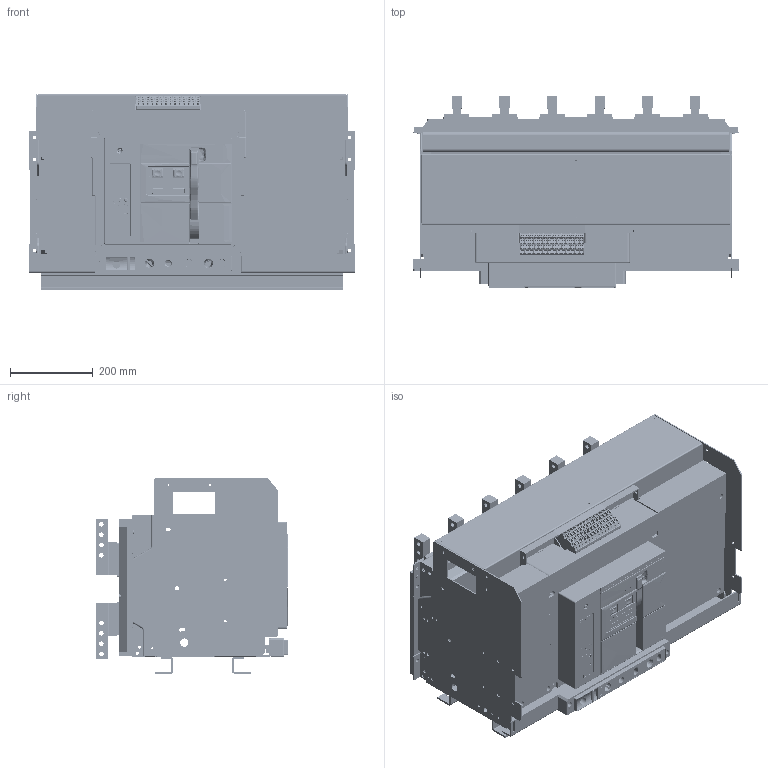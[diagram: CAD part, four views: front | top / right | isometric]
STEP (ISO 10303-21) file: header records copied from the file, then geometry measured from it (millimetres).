
FILE_DESCRIPTION((''),'2;1');
FILE_NAME('NA8-7500-6300-3P_ASM','2020-03-17T16:37:06',('lcc'),(''),'CREO PARAMETRIC BY PTC INC, 2018020','CREO PARAMETRIC BY PTC INC, 2018020','');
FILE_SCHEMA(('CONFIG_CONTROL_DESIGN','SHAPE_APPEARANCE_LAYERS_GROUPS'));
Products named in the file (42): 8050A0101114N; 8050A0306115; 8050A0306116; 8300A0304103; 8ZTD-300-536; 8ZTD-060-207; 8300A0101113; 8300A0101116; 8ZTD-253-779; 8ZTD-253-780; 8ZTD-253-782; 8073A0306101; 8140A0306104; 8150A0306106; 5073A1526101_ASM; 3PJIZUO-01; 3PJIZUO-02; 8580A0412118; 8580A0412021; 8073A0306104; 8ZTD-227-004; 8ZTD-235-048; 8ZTD-321-090; 8ZTD-253-577; 8-040-432; 8-004-030; 8-320-094; 8-860-KZQ; 8ZTD-024-837; 8ZTD-557-514; 8ZTD-557-515; 8ZTD-557-516; 8ZTD-557-517; M3_GB6170; M3X8_GB818; 8ZTD-141-185; 8ZTD-141-184; 5ZTD-558-712_ASM; 8ZTD-860-699; 8ZTD-064-136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
Assembly tree (83 placements, depth 4):
  NA8-7500-6300-3P_ASM
    8050A0101114N
    8050A0306115
    8050A0306116
    8300A0304103
    8ZTD-300-536
    8ZTD-060-207
    8300A0101113
    8300A0101116
    8ZTD-253-779
    8ZTD-253-780
    8ZTD-253-782
    5073A1526101_ASM
      8073A0306101
      8140A0306104  x2
      8150A0306106  x6
    3PJIZUO-01
    3PJIZUO-02
    8580A0412118  x6
    8580A0412021  x12
    8073A0306104  x2
    8ZTD-227-004
    8ZTD-235-048
    8ZTD-321-090
    8ZTD-253-577
    8-040-432
    8-004-030
    8-320-094
    8-860-KZQ
    5ZTD-558-695-4000_ASM
      5ZTD-558-712_ASM  x14
        8ZTD-024-837
        8ZTD-557-514
        8ZTD-557-515
        8ZTD-557-516
        8ZTD-557-517
        M3_GB6170
        M3X8_GB818
        8ZTD-141-185
        8ZTD-141-184
      8ZTD-860-699
      8ZTD-064-136
Bounding box: 786 x 465.48 x 471.5 mm (x, y, z)
Volume: 29763704.9 mm3; surface area: 5828628.4 mm2
Topology: 261 solids, 263 shells, 23445 faces, 63326 edges, 40996 vertices
Faces by surface type: plane 15835, cylinder 4478, cone 1254, bspline 918, torus 471, sphere 264, extrusion 225
Entity records: 387433 total; most frequent: CARTESIAN_POINT 74395, ORIENTED_EDGE 46765, DIRECTION 43508, PRESENTATION_STYLE_ASSIGNMENT 26245, STYLED_ITEM 25952, EDGE_CURVE 23390, CURVE_STYLE 22905, VECTOR 17140
